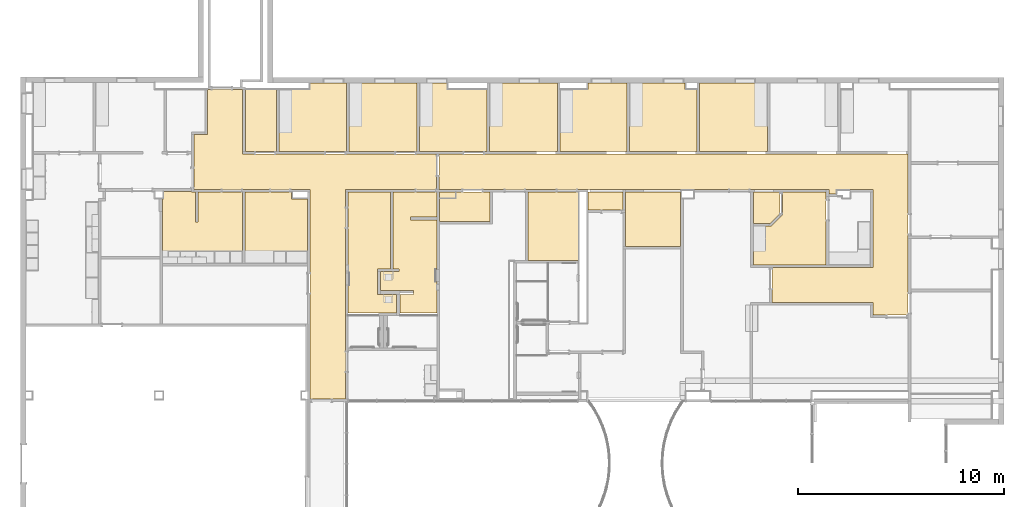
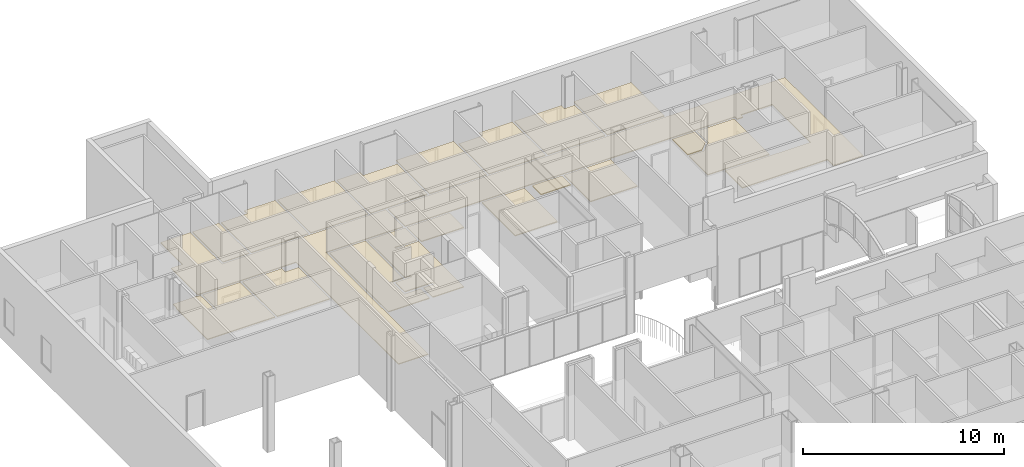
# One storey, part 29 of 45: 20 coverings.
"""IFC2X3 building model written with IfcOpenShell, lengths in metres."""

import ifcopenshell
import ifcopenshell.guid

model = None  # the IFC model being written
_history = None  # IfcOwnerHistory: only IFC2X3 demands one
_inside = {}  # id of a spatial element -> (the spatial element, [elements in it])
_under = {}  # id of a project, library or spatial element -> (it, [spatial elements below it])
_declared = {}  # id of a project -> (the project, [libraries it declares])
_typed = {}  # id of a type object -> (the type object, [elements of that type])
_made_of = {}  # id of a material, layer set ... -> (it, [elements and type objects made of it])


def new_model(schema):
    """Start an empty IFC model of exactly this schema.

    Asked for "IFC4X3", IfcOpenShell would pick the latest addendum, in which some entities
    have other attributes; the version numbers below select the first issue.
    IFC2X3 requires an IfcOwnerHistory on every rooted entity: one is made here for all.
    """
    global model, _history
    if schema == "IFC4X3":
        model = ifcopenshell.file(schema_version=(4, 3, 0, 0))
    else:
        model = ifcopenshell.file(schema=schema)
    _inside.clear()
    _under.clear()
    _declared.clear()
    _typed.clear()
    _made_of.clear()
    _history = None
    if model.schema == "IFC2X3":
        org = make("IfcOrganization", Name="unknown")
        user = make(
            "IfcPersonAndOrganization",
            ThePerson=make("IfcPerson", FamilyName="unknown"),
            TheOrganization=org,
        )
        app = make(
            "IfcApplication",
            ApplicationDeveloper=org,
            Version="unknown",
            ApplicationFullName="unknown",
            ApplicationIdentifier="unknown",
        )
        _history = make(
            "IfcOwnerHistory",
            OwningUser=user,
            OwningApplication=app,
            ChangeAction="ADDED",
            CreationDate=0,
        )
    return model


def make(cls, **values):
    """One entity of the class cls with the attributes given. An attribute that is None is left unset."""
    return model.create_entity(
        cls, **{name: value for name, value in values.items() if value is not None}
    )


def entity(cls, *values):
    """Any entity or typed value of the class cls, its attributes in the order of the schema. None: left unset."""
    e = model.create_entity(cls)
    for i, value in enumerate(values):
        if value is not None:
            e[i] = value
    return e


def rooted(cls, **values):
    """An entity with a GlobalId (a new one), such as an element, a storey or a relation."""
    return make(cls, GlobalId=ifcopenshell.guid.new(), OwnerHistory=_history, **values)


def si_unit(unit_type, name, prefix=None):
    """IfcSIUnit, for example si_unit("LENGTHUNIT", "METRE", prefix="MILLI")."""
    return make("IfcSIUnit", UnitType=unit_type, Prefix=prefix, Name=name)


def converted_unit(unit_type, name, factor, base, dimensions=None, offset=None):
    """IfcConversionBasedUnit, such as the inch: factor (a typed value) times the base unit."""
    return make(
        "IfcConversionBasedUnit"
        if offset is None
        else "IfcConversionBasedUnitWithOffset",
        ConversionOffset=offset,
        Dimensions=None
        if dimensions is None
        else entity("IfcDimensionalExponents", *dimensions),
        UnitType=unit_type,
        Name=name,
        ConversionFactor=make(
            "IfcMeasureWithUnit", ValueComponent=factor, UnitComponent=base
        ),
    )


def assignment(units):
    """IfcUnitAssignment: the units of a project."""
    return None if units is None else make("IfcUnitAssignment", Units=units)


def point(xyz):
    """IfcCartesianPoint."""
    return None if xyz is None else make("IfcCartesianPoint", Coordinates=xyz)


def direction(xyz):
    """IfcDirection."""
    return None if xyz is None else make("IfcDirection", DirectionRatios=xyz)


def frame(location, z_axis=None, x_axis=None):
    """IfcAxis2Placement3D, a coordinate frame: its origin and axes. An axis left out is left unset."""
    return make(
        "IfcAxis2Placement3D",
        Location=point(location),
        Axis=direction(z_axis),
        RefDirection=direction(x_axis),
    )


def origin():
    """The frame at (0, 0, 0) with its axes left unset."""
    return frame((0.0, 0.0, 0.0))


def place(relative_to, where):
    """IfcLocalPlacement: puts the frame where relative to a parent placement (None: the world)."""
    return make(
        "IfcLocalPlacement", PlacementRelTo=relative_to, RelativePlacement=where
    )


def context(
    kind, dimensions, precision=None, world=None, true_north=None, identifier=None
):
    """IfcGeometricRepresentationContext, for example the 3D "Model" context."""
    return make(
        "IfcGeometricRepresentationContext",
        ContextIdentifier=identifier,
        ContextType=kind,
        CoordinateSpaceDimension=dimensions,
        Precision=precision,
        WorldCoordinateSystem=world,
        TrueNorth=true_north,
    )


def project(units=None, contexts=None):
    """IfcProject with its units and contexts."""
    return rooted(
        "IfcProject",
        Name="project",
        RepresentationContexts=contexts,
        UnitsInContext=assignment(units),
    )


def spatial(cls, under=None, at=None, **own):
    """A site, building, storey or space (cls), placed at a placement, below another one or the project."""
    s = rooted(cls, ObjectPlacement=at, **own)
    if under is not None:
        _under.setdefault(under.id(), (under, []))[1].append(s)
    return s


def faces_of(points, faces, orient=None, outer=None):
    """IfcFace entities. A face is a list of loops; a loop is a list of indices into points, from 0.

    orient and outer hold one flag for each loop. By default every Orientation is true, the
    first loop of a face is its IfcFaceOuterBound and the others are IfcFaceBound.
    """
    made = []
    for i, loops in enumerate(faces):
        bounds = []
        for j, loop in enumerate(loops):
            is_outer = j == 0 if outer is None else outer[i][j]
            bounds.append(
                make(
                    "IfcFaceOuterBound" if is_outer else "IfcFaceBound",
                    Bound=make("IfcPolyLoop", Polygon=[points[k] for k in loop]),
                    Orientation=True if orient is None else orient[i][j],
                )
            )
        made.append(make("IfcFace", Bounds=bounds))
    return made


def face_set(faces, orient=None, outer=None):
    """The faces of one IfcConnectedFaceSet. surface_model builds it on its shared points."""
    return ("IfcConnectedFaceSet", faces, orient, outer)


def surface_model(cls, points, shells):
    """IfcFaceBasedSurfaceModel or IfcShellBasedSurfaceModel (cls): surfaces that need not close."""
    shared = [point(p) for p in points]
    made = [make(c, CfsFaces=faces_of(shared, fs, o, b)) for c, fs, o, b in shells]
    if cls == "IfcFaceBasedSurfaceModel":
        return make(cls, FbsmFaces=made)
    return make(cls, SbsmBoundary=made)


def shape(context_of_items, identifier, shape_type, items):
    """IfcShapeRepresentation: the items that make up one representation, for example the "Body"."""
    return make(
        "IfcShapeRepresentation",
        ContextOfItems=context_of_items,
        RepresentationIdentifier=identifier,
        RepresentationType=shape_type,
        Items=items,
    )


def material(Name=None, Category=None):
    """IfcMaterial."""
    return make("IfcMaterial", Name=Name, Category=Category)


def layer(
    of_material, thickness, ventilated=None, Name=None, Category=None, Priority=None
):
    """IfcMaterialLayer: one layer of a wall or slab, of a material (None: an air gap)."""
    return make(
        "IfcMaterialLayer",
        Material=of_material,
        LayerThickness=thickness,
        IsVentilated=ventilated,
        Name=Name,
        Category=Category,
        Priority=Priority,
    )


def layer_set(layers, Name=None):
    """IfcMaterialLayerSet."""
    return make("IfcMaterialLayerSet", MaterialLayers=layers, LayerSetName=Name)


def layer_usage(for_layer_set, set_direction, sense, offset, extent=None):
    """IfcMaterialLayerSetUsage: how a layer set lies in its element."""
    return make(
        "IfcMaterialLayerSetUsage",
        ForLayerSet=for_layer_set,
        LayerSetDirection=set_direction,
        DirectionSense=sense,
        OffsetFromReferenceLine=offset,
        ReferenceExtent=extent,
    )


def made_of(thing, what):
    """Note that an element or type object is made of a material, layer set ...; save() writes the relation."""
    if what is not None:
        _made_of.setdefault(what.id(), (what, []))[1].append(thing)
    return thing


def element(
    cls,
    number,
    at=None,
    inside=None,
    cuts=None,
    type_object=None,
    material=None,
    context=None,
    identifier="Body",
    shape_type=None,
    held_by="IfcProductDefinitionShape",
    body=None,
    shapes=None,
    **own,
):
    """One element of the class cls, such as IfcWall. Its Tag is "e" and its number.

    at: its placement. inside: the storey or other place that contains it. cuts: it is an
    opening in that element (IfcRelVoidsElement). A single representation is given by context,
    identifier, shape_type and body (its items); several are given by shapes. held_by: the class
    of the entity that holds the representations. save() writes the other relations.
    """
    e = rooted(cls, Tag="e%d" % number, ObjectPlacement=at, **own)
    if body is not None:
        shapes = [shape(context, identifier, shape_type, body)]
    if shapes is not None:
        e.Representation = make(held_by, Representations=shapes)
    if inside is not None:
        _inside.setdefault(inside.id(), (inside, []))[1].append(e)
    if cuts is not None:
        rooted(
            "IfcRelVoidsElement", RelatingBuildingElement=cuts, RelatedOpeningElement=e
        )
    if type_object is not None:
        _typed.setdefault(type_object.id(), (type_object, []))[1].append(e)
    return made_of(e, material)


def aggregate(whole, parts):
    """IfcRelAggregates: a whole, such as a stair, and the parts it consists of."""
    return rooted("IfcRelAggregates", RelatingObject=whole, RelatedObjects=parts)


def save(model, path):
    """Write the relations noted so far, then the file.

    IfcRelAggregates (storeys below a building ...), IfcRelContainedInSpatialStructure (elements
    in a storey), IfcRelDefinesByType, IfcRelAssociatesMaterial and IfcRelDeclares: one each for
    every whole, place, type object, material and project.
    """
    for whole, parts in _under.values():
        aggregate(whole, parts)
    for where, things in _inside.values():
        rooted(
            "IfcRelContainedInSpatialStructure",
            RelatedElements=things,
            RelatingStructure=where,
        )
    for kind, things in _typed.values():
        rooted("IfcRelDefinesByType", RelatedObjects=things, RelatingType=kind)
    for what, things in _made_of.values():
        rooted("IfcRelAssociatesMaterial", RelatedObjects=things, RelatingMaterial=what)
    for by, libraries in _declared.values():
        rooted("IfcRelDeclares", RelatingContext=by, RelatedDefinitions=libraries)
    model.write(path)


model = new_model("IFC2X3")

# Units and contexts
model_context = context("Model", 3, precision=1e-09, world=origin())
plan_context = context("Plan", 3, precision=1e-09, world=origin())
ifc_project = project(units=[si_unit("LENGTHUNIT", "METRE"), si_unit("AREAUNIT", "SQUARE_METRE"), si_unit("VOLUMEUNIT", "CUBIC_METRE"), converted_unit("PLANEANGLEUNIT", "DEGREE", entity("IfcRatioMeasure", 0.01745329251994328), si_unit("PLANEANGLEUNIT", "RADIAN"), dimensions=[0, 0, 0, 0, 0, 0, 0]), si_unit("TIMEUNIT", "SECOND")], contexts=[model_context, plan_context])

# Site, building, storey
site_placement = place(None, origin())
site = spatial("IfcSite", under=ifc_project, at=site_placement, Name="Default", CompositionType="ELEMENT")
building_placement = place(site_placement, origin())
building = spatial("IfcBuilding", under=site, at=building_placement, CompositionType="ELEMENT")
storey_placement = place(building_placement, frame((0.0, 0.0, 4.570000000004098)))
storey = spatial("IfcBuildingStorey", under=building, at=storey_placement, Name="Second Floor", CompositionType="ELEMENT", Elevation=4.570000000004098)

# Coverings
ifc_material_1 = material(Name="Default")
ifc_layer_1 = layer(ifc_material_1, 0.03599999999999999)
ifc_material_2 = material(Name="Ceiling Tile 600 x 600")
ifc_layer_2 = layer(ifc_material_2, 0.016)
ifc_layer_set = layer_set([ifc_layer_1, ifc_layer_2], Name="Compound Ceiling:ACT 600 x 600mm Grid")
ifc_layer_usage = layer_usage(ifc_layer_set, "AXIS3", "NEGATIVE", 0.0)
covering_1_placement = place(storey_placement, origin())
element("IfcCovering", 1, at=covering_1_placement, inside=storey, material=ifc_layer_usage, Name="Compound Ceiling:ACT 600 x 600mm Grid", ObjectType="Compound Ceiling:ACT 600 x 600mm Grid", PredefinedType="CEILING", context=model_context, shape_type="SurfaceModel", body=[
    surface_model("IfcFaceBasedSurfaceModel", [(-36.46600000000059, 49.89443871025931, 2.732000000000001), (-34.95000000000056, 49.89443871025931, 2.732000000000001), (-34.95000000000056, 46.87843871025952, 2.732000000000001), (-36.46600000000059, 46.87843871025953, 2.732000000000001), (-36.46600000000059, 49.89443871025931, 2.680000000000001), (-34.95000000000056, 49.89443871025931, 2.680000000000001), (-34.95000000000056, 46.87843871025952, 2.680000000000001), (-36.46600000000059, 46.87843871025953, 2.680000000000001)], [face_set([[[0, 1, 2, 3]], [[4, 5, 6, 7]], [[3, 7, 4, 0]], [[2, 3, 7, 6]], [[1, 2, 6, 5]], [[0, 4, 5, 1]]])]),
])
covering_2_placement = place(storey_placement, origin())
element("IfcCovering", 2, at=covering_2_placement, inside=storey, material=ifc_layer_usage, Name="Compound Ceiling:ACT 600 x 600mm Grid", ObjectType="Compound Ceiling:ACT 600 x 600mm Grid", PredefinedType="CEILING", context=model_context, shape_type="SurfaceModel", body=[
    surface_model("IfcFaceBasedSurfaceModel", [(-24.59600000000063, 50.20299999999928, 2.732000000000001), (-21.31000000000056, 50.20299999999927, 2.732000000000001), (-21.31000000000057, 46.87843871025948, 2.732000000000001), (-21.41160000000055, 46.87843871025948, 2.732000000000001), (-22.32660000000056, 46.87843871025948, 2.732000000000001), (-24.59600000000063, 46.87843871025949, 2.732000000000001), (-24.59600000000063, 50.20299999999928, 2.680000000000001), (-21.31000000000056, 50.20299999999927, 2.680000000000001), (-21.31000000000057, 46.87843871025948, 2.680000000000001), (-21.41160000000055, 46.87843871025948, 2.680000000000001), (-22.32660000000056, 46.87843871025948, 2.680000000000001), (-24.59600000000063, 46.87843871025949, 2.680000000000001)], [face_set([[[0, 1, 2, 3, 4, 5]], [[6, 7, 8, 9, 10, 11]], [[5, 11, 6, 0]], [[4, 5, 11, 10]], [[3, 4, 10, 9]], [[2, 3, 9, 8]], [[1, 2, 8, 7]], [[0, 6, 7, 1]]])]),
])
covering_3_placement = place(storey_placement, origin())
element("IfcCovering", 3, at=covering_3_placement, inside=storey, material=ifc_layer_usage, Name="Compound Ceiling:ACT 600 x 600mm Grid", ObjectType="Compound Ceiling:ACT 600 x 600mm Grid", PredefinedType="CEILING", context=model_context, shape_type="SurfaceModel", body=[
    surface_model("IfcFaceBasedSurfaceModel", [(-5.286600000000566, 46.75443871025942, 2.732000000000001), (-4.385984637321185, 46.75443871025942, 2.732000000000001), (-4.270000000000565, 46.75443871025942, 2.732000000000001), (-4.270000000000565, 46.32643871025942, 2.732000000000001), (-4.270000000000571, 42.7324387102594, 2.732000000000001), (-4.270000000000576, 38.94443871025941, 2.732000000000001), (-5.980000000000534, 38.94443871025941, 2.732000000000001), (-5.980000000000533, 39.54443871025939, 2.732000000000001), (-10.88100000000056, 39.54443871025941, 2.732000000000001), (-10.88100000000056, 41.25443871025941, 2.732000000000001), (-5.980000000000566, 41.25443871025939, 2.732000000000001), (-5.980000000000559, 45.04443871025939, 2.732000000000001), (-7.780000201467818, 45.04443871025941, 2.732000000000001), (-7.780000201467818, 44.81943885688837, 2.732000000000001), (-8.13000000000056, 44.81943885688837, 2.732000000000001), (-8.13000000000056, 45.04443871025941, 2.732000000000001), (-10.81500000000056, 45.04443871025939, 2.732000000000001), (-11.73000000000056, 45.04443871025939, 2.732000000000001), (-15.25800000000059, 45.04443871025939, 2.732000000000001), (-17.12500000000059, 45.04443871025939, 2.732000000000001), (-18.05800000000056, 45.04443871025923, 2.732000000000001), (-19.72840000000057, 45.04443871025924, 2.732000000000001), (-27.06000000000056, 45.04443871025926, 2.732000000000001), (-27.06000000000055, 46.75443871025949, 2.732000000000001), (-22.32660000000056, 46.75443871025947, 2.732000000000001), (-21.41160000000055, 46.75443871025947, 2.732000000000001), (-18.91660000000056, 46.75443871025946, 2.732000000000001), (-18.00160000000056, 46.75443871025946, 2.732000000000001), (-15.50660000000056, 46.75443871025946, 2.732000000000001), (-14.59160000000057, 46.75443871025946, 2.732000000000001), (-12.09660000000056, 46.75443871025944, 2.732000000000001), (-11.19598463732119, 46.75443871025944, 2.732000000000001), (-8.696600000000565, 46.75443871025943, 2.732000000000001), (-7.780000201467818, 46.75443871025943, 2.732000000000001), (-5.286600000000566, 46.75443871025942, 2.680000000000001), (-4.385984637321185, 46.75443871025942, 2.680000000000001), (-4.270000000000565, 46.75443871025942, 2.680000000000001), (-4.270000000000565, 46.32643871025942, 2.680000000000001), (-4.270000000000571, 42.7324387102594, 2.680000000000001), (-4.270000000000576, 38.94443871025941, 2.680000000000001), (-5.980000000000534, 38.94443871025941, 2.680000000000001), (-5.980000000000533, 39.54443871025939, 2.680000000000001), (-10.88100000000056, 39.54443871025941, 2.680000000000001), (-10.88100000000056, 41.25443871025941, 2.680000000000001), (-5.980000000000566, 41.25443871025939, 2.680000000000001), (-5.980000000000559, 45.04443871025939, 2.680000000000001), (-7.780000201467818, 45.04443871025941, 2.680000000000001), (-7.780000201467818, 44.81943885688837, 2.680000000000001), (-8.13000000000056, 44.81943885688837, 2.680000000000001), (-8.13000000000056, 45.04443871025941, 2.680000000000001), (-10.81500000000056, 45.04443871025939, 2.680000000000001), (-11.73000000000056, 45.04443871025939, 2.680000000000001), (-15.25800000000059, 45.04443871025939, 2.680000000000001), (-17.12500000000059, 45.04443871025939, 2.680000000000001), (-18.05800000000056, 45.04443871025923, 2.680000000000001), (-19.72840000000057, 45.04443871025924, 2.680000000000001), (-27.06000000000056, 45.04443871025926, 2.680000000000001), (-27.06000000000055, 46.75443871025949, 2.680000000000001), (-22.32660000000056, 46.75443871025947, 2.680000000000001), (-21.41160000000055, 46.75443871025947, 2.680000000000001), (-18.91660000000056, 46.75443871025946, 2.680000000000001), (-18.00160000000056, 46.75443871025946, 2.680000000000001), (-15.50660000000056, 46.75443871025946, 2.680000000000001), (-14.59160000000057, 46.75443871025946, 2.680000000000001), (-12.09660000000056, 46.75443871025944, 2.680000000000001), (-11.19598463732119, 46.75443871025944, 2.680000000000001), (-8.696600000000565, 46.75443871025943, 2.680000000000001), (-7.780000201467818, 46.75443871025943, 2.680000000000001)], [face_set([[[0, 1, 2, 3, 4, 5, 6, 7, 8, 9, 10, 11, 12, 13, 14, 15, 16, 17, 18, 19, 20, 21, 22, 23, 24, 25, 26, 27, 28, 29, 30, 31, 32, 33]], [[34, 35, 36, 37, 38, 39, 40, 41, 42, 43, 44, 45, 46, 47, 48, 49, 50, 51, 52, 53, 54, 55, 56, 57, 58, 59, 60, 61, 62, 63, 64, 65, 66, 67]], [[33, 67, 34, 0]], [[32, 66, 67, 33]], [[31, 65, 66, 32]], [[30, 64, 65, 31]], [[29, 63, 64, 30]], [[28, 62, 63, 29]], [[27, 61, 62, 28]], [[26, 60, 61, 27]], [[25, 59, 60, 26]], [[24, 58, 59, 25]], [[23, 57, 58, 24]], [[22, 56, 57, 23]], [[21, 22, 56, 55]], [[20, 21, 55, 54]], [[19, 20, 54, 53]], [[18, 19, 53, 52]], [[17, 18, 52, 51]], [[16, 17, 51, 50]], [[15, 16, 50, 49]], [[14, 48, 49, 15]], [[13, 14, 48, 47]], [[12, 13, 47, 46]], [[11, 12, 46, 45]], [[10, 44, 45, 11]], [[9, 43, 44, 10]], [[8, 42, 43, 9]], [[7, 8, 42, 41]], [[6, 40, 41, 7]], [[5, 6, 40, 39]], [[4, 5, 39, 38]], [[3, 4, 38, 37]], [[2, 3, 37, 36]], [[1, 35, 36, 2]], [[0, 34, 35, 1]]])]),
])
covering_4_placement = place(storey_placement, origin())
element("IfcCovering", 4, at=covering_4_placement, inside=storey, material=ifc_layer_usage, Name="Compound Ceiling:ACT 600 x 600mm Grid", ObjectType="Compound Ceiling:ACT 600 x 600mm Grid", PredefinedType="CEILING", context=model_context, shape_type="SurfaceModel", body=[
    surface_model("IfcFaceBasedSurfaceModel", [(-10.37997086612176, 43.80884532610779, 2.732000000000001), (-10.93151415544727, 43.25730203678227, 2.732000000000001), (-11.79600000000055, 43.25730203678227, 2.732000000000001), (-11.79600000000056, 41.37843871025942, 2.732000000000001), (-8.254000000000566, 41.3784387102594, 2.732000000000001), (-8.254000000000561, 44.75743885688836, 2.732000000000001), (-8.254000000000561, 44.9204387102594, 2.732000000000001), (-10.37997086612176, 44.9204387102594, 2.732000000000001), (-10.37997086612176, 43.80884532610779, 2.680000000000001), (-10.37997086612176, 44.9204387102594, 2.680000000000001), (-8.254000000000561, 44.9204387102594, 2.680000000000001), (-8.254000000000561, 44.75743885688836, 2.680000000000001), (-8.254000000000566, 41.3784387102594, 2.680000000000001), (-11.79600000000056, 41.37843871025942, 2.680000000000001), (-11.79600000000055, 43.25730203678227, 2.680000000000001), (-10.93151415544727, 43.25730203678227, 2.680000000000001)], [face_set([[[0, 1, 2, 3, 4, 5, 6, 7]], [[8, 9, 10, 11, 12, 13, 14, 15]], [[1, 15, 8, 0]], [[2, 14, 15, 1]], [[3, 13, 14, 2]], [[4, 3, 13, 12]], [[5, 4, 12, 11]], [[6, 5, 11, 10]], [[7, 9, 10, 6]], [[0, 8, 9, 7]]])]),
])
covering_5_placement = place(storey_placement, origin())
element("IfcCovering", 5, at=covering_5_placement, inside=storey, material=ifc_layer_usage, Name="Compound Ceiling:ACT 600 x 600mm Grid", ObjectType="Compound Ceiling:ACT 600 x 600mm Grid", PredefinedType="CEILING", context=model_context, shape_type="SurfaceModel", body=[
    surface_model("IfcFaceBasedSurfaceModel", [(-29.29000000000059, 41.17054685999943, 2.732000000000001), (-28.99560000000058, 41.17054685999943, 2.732000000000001), (-28.99560000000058, 41.04654685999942, 2.732000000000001), (-29.91000000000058, 41.04654685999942, 2.732000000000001), (-29.91000000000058, 40.13154685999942, 2.732000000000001), (-28.30000000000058, 40.13154685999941, 2.732000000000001), (-28.30000000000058, 39.94754685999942, 2.732000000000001), (-28.94000000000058, 39.94754685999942, 2.732000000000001), (-28.94000000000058, 39.03376656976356, 2.732000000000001), (-27.15000000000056, 39.03376656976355, 2.732000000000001), (-27.15000000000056, 43.57043871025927, 2.732000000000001), (-28.44000000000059, 43.57043871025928, 2.732000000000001), (-28.44000000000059, 43.69443871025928, 2.732000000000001), (-27.15000000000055, 43.69443871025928, 2.732000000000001), (-27.15000000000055, 44.92043871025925, 2.732000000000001), (-29.29000000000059, 44.92043871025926, 2.732000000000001), (-29.29000000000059, 41.17054685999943, 2.680000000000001), (-29.29000000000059, 44.92043871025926, 2.680000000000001), (-27.15000000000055, 44.92043871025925, 2.680000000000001), (-27.15000000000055, 43.69443871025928, 2.680000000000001), (-28.44000000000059, 43.69443871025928, 2.680000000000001), (-28.44000000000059, 43.57043871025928, 2.680000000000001), (-27.15000000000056, 43.57043871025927, 2.680000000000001), (-27.15000000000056, 39.03376656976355, 2.680000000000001), (-28.94000000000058, 39.03376656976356, 2.680000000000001), (-28.94000000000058, 39.94754685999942, 2.680000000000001), (-28.30000000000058, 39.94754685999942, 2.680000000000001), (-28.30000000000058, 40.13154685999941, 2.680000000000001), (-29.91000000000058, 40.13154685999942, 2.680000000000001), (-29.91000000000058, 41.04654685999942, 2.680000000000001), (-28.99560000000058, 41.04654685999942, 2.680000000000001), (-28.99560000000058, 41.17054685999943, 2.680000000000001)], [face_set([[[0, 1, 2, 3, 4, 5, 6, 7, 8, 9, 10, 11, 12, 13, 14, 15]], [[16, 17, 18, 19, 20, 21, 22, 23, 24, 25, 26, 27, 28, 29, 30, 31]], [[1, 0, 16, 31]], [[2, 30, 31, 1]], [[3, 29, 30, 2]], [[4, 28, 29, 3]], [[5, 4, 28, 27]], [[6, 26, 27, 5]], [[7, 25, 26, 6]], [[8, 24, 25, 7]], [[9, 8, 24, 23]], [[10, 9, 23, 22]], [[11, 21, 22, 10]], [[12, 11, 21, 20]], [[13, 12, 20, 19]], [[14, 13, 19, 18]], [[15, 17, 18, 14]], [[0, 16, 17, 15]]])]),
])
covering_6_placement = place(storey_placement, origin())
element("IfcCovering", 6, at=covering_6_placement, inside=storey, material=ifc_layer_usage, Name="Compound Ceiling:ACT 600 x 600mm Grid", ObjectType="Compound Ceiling:ACT 600 x 600mm Grid", PredefinedType="CEILING", context=model_context, shape_type="SurfaceModel", body=[
    surface_model("IfcFaceBasedSurfaceModel", [(-28.00600000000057, 50.20299999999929, 2.732000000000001), (-26.6700000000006, 50.20299999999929, 2.732000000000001), (-26.6700000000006, 49.89443871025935, 2.732000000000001), (-24.72000000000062, 49.89443871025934, 2.732000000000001), (-24.72000000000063, 46.87843871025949, 2.732000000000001), (-28.00600000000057, 46.8784387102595, 2.732000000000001), (-28.00600000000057, 50.20299999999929, 2.680000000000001), (-26.6700000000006, 50.20299999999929, 2.680000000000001), (-26.6700000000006, 49.89443871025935, 2.680000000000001), (-24.72000000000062, 49.89443871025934, 2.680000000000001), (-24.72000000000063, 46.87843871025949, 2.680000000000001), (-28.00600000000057, 46.8784387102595, 2.680000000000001)], [face_set([[[0, 1, 2, 3, 4, 5]], [[6, 7, 8, 9, 10, 11]], [[5, 11, 6, 0]], [[4, 5, 11, 10]], [[3, 4, 10, 9]], [[2, 8, 9, 3]], [[1, 2, 8, 7]], [[0, 6, 7, 1]]])]),
])
covering_7_placement = place(storey_placement, origin())
element("IfcCovering", 7, at=covering_7_placement, inside=storey, material=ifc_layer_usage, Name="Compound Ceiling:ACT 600 x 600mm Grid", ObjectType="Compound Ceiling:ACT 600 x 600mm Grid", PredefinedType="CEILING", context=model_context, shape_type="SurfaceModel", body=[
    surface_model("IfcFaceBasedSurfaceModel", [(-31.4860000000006, 44.92043871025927, 2.732000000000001), (-29.41400000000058, 44.92043871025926, 2.732000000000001), (-29.41400000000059, 41.17054685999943, 2.732000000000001), (-30.03400000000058, 41.17054685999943, 2.732000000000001), (-30.03400000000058, 39.94754685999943, 2.732000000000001), (-29.12400000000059, 39.94754685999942, 2.732000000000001), (-29.12400000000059, 39.03376656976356, 2.732000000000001), (-31.48600000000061, 39.03376656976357, 2.732000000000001), (-31.4860000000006, 44.92043871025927, 2.680000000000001), (-29.41400000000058, 44.92043871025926, 2.680000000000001), (-29.41400000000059, 41.17054685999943, 2.680000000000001), (-30.03400000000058, 41.17054685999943, 2.680000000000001), (-30.03400000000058, 39.94754685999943, 2.680000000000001), (-29.12400000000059, 39.94754685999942, 2.680000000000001), (-29.12400000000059, 39.03376656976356, 2.680000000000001), (-31.48600000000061, 39.03376656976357, 2.680000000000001)], [face_set([[[0, 1, 2, 3, 4, 5, 6, 7]], [[8, 9, 10, 11, 12, 13, 14, 15]], [[7, 15, 8, 0]], [[6, 7, 15, 14]], [[5, 6, 14, 13]], [[4, 12, 13, 5]], [[3, 4, 12, 11]], [[2, 3, 11, 10]], [[1, 2, 10, 9]], [[0, 8, 9, 1]]])]),
])
covering_8_placement = place(storey_placement, origin())
element("IfcCovering", 8, at=covering_8_placement, inside=storey, material=ifc_layer_usage, Name="Compound Ceiling:ACT 600 x 600mm Grid", ObjectType="Compound Ceiling:ACT 600 x 600mm Grid", PredefinedType="CEILING", context=model_context, shape_type="SurfaceModel", body=[
    surface_model("IfcFaceBasedSurfaceModel", [(-14.40000000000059, 46.87843871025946, 2.732000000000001), (-14.40000000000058, 50.20299999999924, 2.732000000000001), (-11.11400000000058, 50.20299999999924, 2.732000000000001), (-11.11400000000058, 46.87843871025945, 2.732000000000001), (-12.09660000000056, 46.87843871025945, 2.732000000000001), (-14.40000000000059, 46.87843871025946, 2.680000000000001), (-14.40000000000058, 50.20299999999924, 2.680000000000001), (-11.11400000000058, 50.20299999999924, 2.680000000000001), (-11.11400000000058, 46.87843871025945, 2.680000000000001), (-12.09660000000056, 46.87843871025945, 2.680000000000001)], [face_set([[[0, 1, 2, 3, 4]], [[5, 6, 7, 8, 9]], [[4, 0, 5, 9]], [[3, 4, 9, 8]], [[2, 3, 8, 7]], [[1, 6, 7, 2]], [[0, 5, 6, 1]]])]),
])
covering_9_placement = place(storey_placement, origin())
element("IfcCovering", 9, at=covering_9_placement, inside=storey, material=ifc_layer_usage, Name="Compound Ceiling:ACT 600 x 600mm Grid", ObjectType="Compound Ceiling:ACT 600 x 600mm Grid", PredefinedType="CEILING", context=model_context, shape_type="SurfaceModel", body=[
    surface_model("IfcFaceBasedSurfaceModel", [(-31.41600000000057, 50.20299999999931, 2.732000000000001), (-28.13000000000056, 50.20299999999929, 2.732000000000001), (-28.13000000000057, 46.8784387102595, 2.732000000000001), (-31.41600000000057, 46.87843871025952, 2.732000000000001), (-31.41600000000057, 50.20299999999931, 2.680000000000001), (-28.13000000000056, 50.20299999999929, 2.680000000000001), (-28.13000000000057, 46.8784387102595, 2.680000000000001), (-31.41600000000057, 46.87843871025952, 2.680000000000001)], [face_set([[[0, 1, 2, 3]], [[4, 5, 6, 7]], [[3, 7, 4, 0]], [[2, 3, 7, 6]], [[1, 2, 6, 5]], [[0, 4, 5, 1]]])]),
])
covering_10_placement = place(storey_placement, origin())
element("IfcCovering", 10, at=covering_10_placement, inside=storey, material=ifc_layer_usage, Name="Compound Ceiling:ACT 600 x 600mm Grid", ObjectType="Compound Ceiling:ACT 600 x 600mm Grid", PredefinedType="CEILING", context=model_context, shape_type="SurfaceModel", body=[
    surface_model("IfcFaceBasedSurfaceModel", [(-33.3200000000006, 50.20299999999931, 2.732000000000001), (-33.3200000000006, 49.89443871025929, 2.732000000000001), (-34.82600000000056, 49.89443871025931, 2.732000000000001), (-34.82600000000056, 46.87843871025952, 2.732000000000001), (-31.54000000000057, 46.87843871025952, 2.732000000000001), (-31.54000000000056, 50.20299999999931, 2.732000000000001), (-33.3200000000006, 50.20299999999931, 2.680000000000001), (-31.54000000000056, 50.20299999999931, 2.680000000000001), (-31.54000000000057, 46.87843871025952, 2.680000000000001), (-34.82600000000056, 46.87843871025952, 2.680000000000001), (-34.82600000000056, 49.89443871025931, 2.680000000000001), (-33.3200000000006, 49.89443871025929, 2.680000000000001)], [face_set([[[0, 1, 2, 3, 4, 5]], [[6, 7, 8, 9, 10, 11]], [[2, 10, 11, 1]], [[3, 9, 10, 2]], [[4, 3, 9, 8]], [[5, 4, 8, 7]], [[0, 6, 7, 5]], [[1, 11, 6, 0]]])]),
])
covering_11_placement = place(storey_placement, origin())
element("IfcCovering", 11, at=covering_11_placement, inside=storey, material=ifc_layer_usage, Name="Compound Ceiling:ACT 600 x 600mm Grid", ObjectType="Compound Ceiling:ACT 600 x 600mm Grid", PredefinedType="CEILING", context=model_context, shape_type="SurfaceModel", body=[
    surface_model("IfcFaceBasedSurfaceModel", [(-22.73000000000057, 41.5944387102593, 2.732000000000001), (-22.73000000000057, 44.92043871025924, 2.732000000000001), (-20.29000000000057, 44.92043871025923, 2.732000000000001), (-20.29000000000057, 41.59443871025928, 2.732000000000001), (-22.73000000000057, 41.5944387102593, 2.680000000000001), (-22.73000000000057, 44.92043871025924, 2.680000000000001), (-20.29000000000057, 44.92043871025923, 2.680000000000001), (-20.29000000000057, 41.59443871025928, 2.680000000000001)], [face_set([[[0, 1, 2, 3]], [[4, 5, 6, 7]], [[3, 0, 4, 7]], [[2, 3, 7, 6]], [[1, 5, 6, 2]], [[0, 4, 5, 1]]])]),
])
covering_12_placement = place(storey_placement, origin())
element("IfcCovering", 12, at=covering_12_placement, inside=storey, material=ifc_layer_usage, Name="Compound Ceiling:ACT 600 x 600mm Grid", ObjectType="Compound Ceiling:ACT 600 x 600mm Grid", PredefinedType="CEILING", context=model_context, shape_type="SurfaceModel", body=[
    surface_model("IfcFaceBasedSurfaceModel", [(-18.12000000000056, 44.03943871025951, 2.732000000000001), (-19.83000000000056, 44.03943871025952, 2.732000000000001), (-19.83000000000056, 44.92043871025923, 2.732000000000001), (-19.72840000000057, 44.92043871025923, 2.732000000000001), (-18.12000000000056, 44.92043871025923, 2.732000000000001), (-18.12000000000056, 44.03943871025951, 2.680000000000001), (-19.83000000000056, 44.03943871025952, 2.680000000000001), (-19.83000000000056, 44.92043871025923, 2.680000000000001), (-19.72840000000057, 44.92043871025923, 2.680000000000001), (-18.12000000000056, 44.92043871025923, 2.680000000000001)], [face_set([[[0, 1, 2, 3, 4]], [[5, 6, 7, 8, 9]], [[4, 0, 5, 9]], [[3, 8, 9, 4]], [[2, 7, 8, 3]], [[1, 6, 7, 2]], [[0, 1, 6, 5]]])]),
])
covering_13_placement = place(storey_placement, origin())
element("IfcCovering", 13, at=covering_13_placement, inside=storey, material=ifc_layer_usage, Name="Compound Ceiling:ACT 600 x 600mm Grid", ObjectType="Compound Ceiling:ACT 600 x 600mm Grid", PredefinedType="CEILING", context=model_context, shape_type="SurfaceModel", body=[
    surface_model("IfcFaceBasedSurfaceModel", [(-38.30000000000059, 47.70443871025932, 2.732000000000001), (-38.30000000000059, 49.89443871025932, 2.732000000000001), (-36.59000000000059, 49.89443871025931, 2.732000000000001), (-36.59000000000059, 46.75443871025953, 2.732000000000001), (-27.18400000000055, 46.75443871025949, 2.732000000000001), (-27.18400000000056, 45.04443871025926, 2.732000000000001), (-31.61000000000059, 45.04443871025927, 2.732000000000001), (-31.61000000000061, 34.85836288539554, 2.732000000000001), (-33.32000000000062, 34.85836288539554, 2.732000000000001), (-33.3200000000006, 45.04443871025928, 2.732000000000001), (-38.9600000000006, 45.0444387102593, 2.732000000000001), (-38.96000000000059, 47.70443871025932, 2.732000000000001), (-38.30000000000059, 47.70443871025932, 2.680000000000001), (-38.30000000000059, 49.89443871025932, 2.680000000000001), (-36.59000000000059, 49.89443871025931, 2.680000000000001), (-36.59000000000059, 46.75443871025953, 2.680000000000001), (-27.18400000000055, 46.75443871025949, 2.680000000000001), (-27.18400000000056, 45.04443871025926, 2.680000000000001), (-31.61000000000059, 45.04443871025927, 2.680000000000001), (-31.61000000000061, 34.85836288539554, 2.680000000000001), (-33.32000000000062, 34.85836288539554, 2.680000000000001), (-33.3200000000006, 45.04443871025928, 2.680000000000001), (-38.9600000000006, 45.0444387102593, 2.680000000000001), (-38.96000000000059, 47.70443871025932, 2.680000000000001)], [face_set([[[0, 1, 2, 3, 4, 5, 6, 7, 8, 9, 10, 11]], [[12, 13, 14, 15, 16, 17, 18, 19, 20, 21, 22, 23]], [[11, 23, 12, 0]], [[10, 22, 23, 11]], [[9, 10, 22, 21]], [[8, 20, 21, 9]], [[7, 8, 20, 19]], [[6, 7, 19, 18]], [[5, 6, 18, 17]], [[4, 5, 17, 16]], [[3, 15, 16, 4]], [[2, 3, 15, 14]], [[1, 13, 14, 2]], [[0, 12, 13, 1]]])]),
])
covering_14_placement = place(storey_placement, origin())
element("IfcCovering", 14, at=covering_14_placement, inside=storey, material=ifc_layer_usage, Name="Compound Ceiling:ACT 600 x 600mm Grid", ObjectType="Compound Ceiling:ACT 600 x 600mm Grid", PredefinedType="CEILING", context=model_context, shape_type="SurfaceModel", body=[
    surface_model("IfcFaceBasedSurfaceModel", [(-27.02600000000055, 44.92043871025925, 2.732000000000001), (-24.57400000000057, 44.92043871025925, 2.732000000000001), (-24.57400000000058, 43.4884387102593, 2.732000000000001), (-27.02600000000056, 43.48843871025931, 2.732000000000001), (-27.02600000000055, 44.92043871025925, 2.680000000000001), (-24.57400000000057, 44.92043871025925, 2.680000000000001), (-24.57400000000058, 43.4884387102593, 2.680000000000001), (-27.02600000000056, 43.48843871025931, 2.680000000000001)], [face_set([[[0, 1, 2, 3]], [[4, 5, 6, 7]], [[3, 7, 4, 0]], [[2, 3, 7, 6]], [[1, 2, 6, 5]], [[0, 4, 5, 1]]])]),
])
covering_15_placement = place(storey_placement, origin())
element("IfcCovering", 15, at=covering_15_placement, inside=storey, material=ifc_layer_usage, Name="Compound Ceiling:ACT 600 x 600mm Grid", ObjectType="Compound Ceiling:ACT 600 x 600mm Grid", PredefinedType="CEILING", context=model_context, shape_type="SurfaceModel", body=[
    surface_model("IfcFaceBasedSurfaceModel", [(-10.81500000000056, 44.92043871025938, 2.732000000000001), (-10.50397086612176, 44.9204387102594, 2.732000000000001), (-10.50397086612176, 43.86020780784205, 2.732000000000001), (-10.98287663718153, 43.38130203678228, 2.732000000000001), (-11.79600000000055, 43.38130203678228, 2.732000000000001), (-11.79600000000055, 44.92043871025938, 2.732000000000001), (-10.81500000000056, 44.92043871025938, 2.680000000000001), (-10.50397086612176, 44.9204387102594, 2.680000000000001), (-10.50397086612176, 43.86020780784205, 2.680000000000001), (-10.98287663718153, 43.38130203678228, 2.680000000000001), (-11.79600000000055, 43.38130203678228, 2.680000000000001), (-11.79600000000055, 44.92043871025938, 2.680000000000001)], [face_set([[[0, 1, 2, 3, 4, 5]], [[6, 7, 8, 9, 10, 11]], [[5, 11, 6, 0]], [[4, 10, 11, 5]], [[3, 4, 10, 9]], [[2, 3, 9, 8]], [[1, 2, 8, 7]], [[0, 6, 7, 1]]])]),
])
covering_16_placement = place(storey_placement, origin())
element("IfcCovering", 16, at=covering_16_placement, inside=storey, material=ifc_layer_usage, Name="Compound Ceiling:ACT 600 x 600mm Grid", ObjectType="Compound Ceiling:ACT 600 x 600mm Grid", PredefinedType="CEILING", context=model_context, shape_type="SurfaceModel", body=[
    surface_model("IfcFaceBasedSurfaceModel", [(-36.4800000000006, 41.45843871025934, 2.732000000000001), (-36.48000000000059, 44.92043871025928, 2.732000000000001), (-34.22000000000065, 44.92043871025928, 2.732000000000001), (-34.22000000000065, 44.5844387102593, 2.732000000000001), (-33.4440000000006, 44.5844387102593, 2.732000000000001), (-33.4440000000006, 41.45843871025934, 2.732000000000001), (-36.4800000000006, 41.45843871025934, 2.680000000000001), (-36.48000000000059, 44.92043871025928, 2.680000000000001), (-34.22000000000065, 44.92043871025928, 2.680000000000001), (-34.22000000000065, 44.5844387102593, 2.680000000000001), (-33.4440000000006, 44.5844387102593, 2.680000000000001), (-33.4440000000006, 41.45843871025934, 2.680000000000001)], [face_set([[[0, 1, 2, 3, 4, 5]], [[6, 7, 8, 9, 10, 11]], [[5, 0, 6, 11]], [[4, 5, 11, 10]], [[3, 9, 10, 4]], [[2, 3, 9, 8]], [[1, 7, 8, 2]], [[0, 6, 7, 1]]])]),
])
covering_17_placement = place(storey_placement, origin())
element("IfcCovering", 17, at=covering_17_placement, inside=storey, material=ifc_layer_usage, Name="Compound Ceiling:ACT 600 x 600mm Grid", ObjectType="Compound Ceiling:ACT 600 x 600mm Grid", PredefinedType="CEILING", context=model_context, shape_type="SurfaceModel", body=[
    surface_model("IfcFaceBasedSurfaceModel", [(-19.83000000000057, 50.20299999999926, 2.732000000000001), (-19.83000000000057, 49.89443871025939, 2.732000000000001), (-21.18600000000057, 49.8944387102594, 2.732000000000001), (-21.18600000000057, 46.87843871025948, 2.732000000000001), (-18.91660000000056, 46.87843871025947, 2.732000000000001), (-17.9340000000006, 46.87843871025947, 2.732000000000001), (-17.93400000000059, 50.20299999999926, 2.732000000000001), (-19.83000000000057, 50.20299999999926, 2.680000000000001), (-17.93400000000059, 50.20299999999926, 2.680000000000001), (-17.9340000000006, 46.87843871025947, 2.680000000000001), (-18.91660000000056, 46.87843871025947, 2.680000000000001), (-21.18600000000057, 46.87843871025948, 2.680000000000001), (-21.18600000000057, 49.8944387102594, 2.680000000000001), (-19.83000000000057, 49.89443871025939, 2.680000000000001)], [face_set([[[0, 1, 2, 3, 4, 5, 6]], [[7, 8, 9, 10, 11, 12, 13]], [[2, 12, 13, 1]], [[3, 11, 12, 2]], [[4, 3, 11, 10]], [[5, 4, 10, 9]], [[6, 5, 9, 8]], [[0, 7, 8, 6]], [[1, 13, 7, 0]]])]),
])
covering_18_placement = place(storey_placement, origin())
element("IfcCovering", 18, at=covering_18_placement, inside=storey, material=ifc_layer_usage, Name="Compound Ceiling:ACT 600 x 600mm Grid", ObjectType="Compound Ceiling:ACT 600 x 600mm Grid", PredefinedType="CEILING", context=model_context, shape_type="SurfaceModel", body=[
    surface_model("IfcFaceBasedSurfaceModel", [(-15.32000000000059, 44.92043871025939, 2.732000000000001), (-15.3200000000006, 42.28000069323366, 2.732000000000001), (-18.00500000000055, 42.28000069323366, 2.732000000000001), (-18.00500000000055, 44.9204387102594, 2.732000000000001), (-15.32000000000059, 44.92043871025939, 2.680000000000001), (-15.3200000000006, 42.28000069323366, 2.680000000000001), (-18.00500000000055, 42.28000069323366, 2.680000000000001), (-18.00500000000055, 44.9204387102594, 2.680000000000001)], [face_set([[[0, 1, 2, 3]], [[4, 5, 6, 7]], [[3, 7, 4, 0]], [[2, 6, 7, 3]], [[1, 2, 6, 5]], [[0, 1, 5, 4]]])]),
])
covering_19_placement = place(storey_placement, origin())
element("IfcCovering", 19, at=covering_19_placement, inside=storey, material=ifc_layer_usage, Name="Compound Ceiling:ACT 600 x 600mm Grid", ObjectType="Compound Ceiling:ACT 600 x 600mm Grid", PredefinedType="CEILING", context=model_context, shape_type="SurfaceModel", body=[
    surface_model("IfcFaceBasedSurfaceModel", [(-17.8100000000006, 46.87843871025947, 2.732000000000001), (-17.81000000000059, 50.20299999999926, 2.732000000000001), (-15.10997500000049, 50.20299999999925, 2.732000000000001), (-15.10997500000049, 49.8944387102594, 2.732000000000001), (-14.52400000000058, 49.8944387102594, 2.732000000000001), (-14.52400000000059, 46.87843871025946, 2.732000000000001), (-15.50660000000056, 46.87843871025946, 2.732000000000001), (-17.8100000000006, 46.87843871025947, 2.680000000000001), (-17.81000000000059, 50.20299999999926, 2.680000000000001), (-15.10997500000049, 50.20299999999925, 2.680000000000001), (-15.10997500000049, 49.8944387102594, 2.680000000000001), (-14.52400000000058, 49.8944387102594, 2.680000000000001), (-14.52400000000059, 46.87843871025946, 2.680000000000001), (-15.50660000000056, 46.87843871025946, 2.680000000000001)], [face_set([[[0, 1, 2, 3, 4, 5, 6]], [[7, 8, 9, 10, 11, 12, 13]], [[6, 0, 7, 13]], [[5, 6, 13, 12]], [[4, 5, 12, 11]], [[3, 10, 11, 4]], [[2, 3, 10, 9]], [[1, 8, 9, 2]], [[0, 7, 8, 1]]])]),
])
covering_20_placement = place(storey_placement, origin())
element("IfcCovering", 20, at=covering_20_placement, inside=storey, material=ifc_layer_usage, Name="Compound Ceiling:ACT 600 x 600mm Grid", ObjectType="Compound Ceiling:ACT 600 x 600mm Grid", PredefinedType="CEILING", context=model_context, shape_type="SurfaceModel", body=[
    surface_model("IfcFaceBasedSurfaceModel", [(-39.08400000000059, 44.95443871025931, 2.732000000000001), (-39.08400000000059, 44.92043871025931, 2.732000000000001), (-38.88400000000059, 44.92043871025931, 2.732000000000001), (-38.8840000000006, 43.4544387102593, 2.732000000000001), (-38.7600000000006, 43.4544387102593, 2.732000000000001), (-38.76000000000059, 44.92043871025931, 2.732000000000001), (-36.6040000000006, 44.92043871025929, 2.732000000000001), (-36.6040000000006, 41.45843871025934, 2.732000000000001), (-40.47600000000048, 41.45843871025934, 2.732000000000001), (-40.47600000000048, 44.5844387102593, 2.732000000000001), (-40.4300000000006, 44.5844387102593, 2.732000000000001), (-40.4300000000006, 44.95443871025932, 2.732000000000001), (-39.08400000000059, 44.95443871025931, 2.680000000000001), (-40.4300000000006, 44.95443871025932, 2.680000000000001), (-40.4300000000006, 44.5844387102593, 2.680000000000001), (-40.47600000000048, 44.5844387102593, 2.680000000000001), (-40.47600000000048, 41.45843871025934, 2.680000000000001), (-36.6040000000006, 41.45843871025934, 2.680000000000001), (-36.6040000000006, 44.92043871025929, 2.680000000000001), (-38.76000000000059, 44.92043871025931, 2.680000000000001), (-38.7600000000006, 43.4544387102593, 2.680000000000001), (-38.8840000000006, 43.4544387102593, 2.680000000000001), (-38.88400000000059, 44.92043871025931, 2.680000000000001), (-39.08400000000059, 44.92043871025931, 2.680000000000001)], [face_set([[[0, 1, 2, 3, 4, 5, 6, 7, 8, 9, 10, 11]], [[12, 13, 14, 15, 16, 17, 18, 19, 20, 21, 22, 23]], [[11, 13, 12, 0]], [[10, 14, 13, 11]], [[9, 15, 14, 10]], [[8, 16, 15, 9]], [[7, 8, 16, 17]], [[6, 7, 17, 18]], [[5, 19, 18, 6]], [[4, 20, 19, 5]], [[3, 21, 20, 4]], [[2, 3, 21, 22]], [[1, 23, 22, 2]], [[0, 1, 23, 12]]])]),
])

save(model, "model.ifc")
